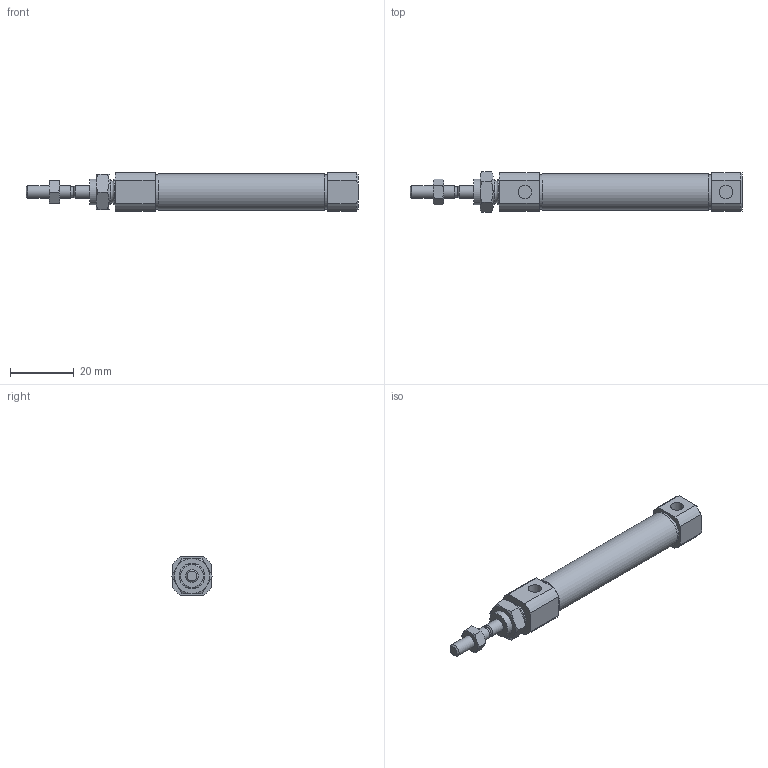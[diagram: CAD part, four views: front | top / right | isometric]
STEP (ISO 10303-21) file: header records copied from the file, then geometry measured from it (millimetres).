
FILE_DESCRIPTION((''),'2;1');
FILE_NAME('I:\3D電子目錄\氣缸\SBA\SBA\SBA10\SBA10x30.stp','2007-10-04T11:37:58',('66-2f-008'),(''),'Autodesk Inventor 11','Autodesk Inventor 11','');
FILE_SCHEMA(('AUTOMOTIVE_DESIGN { 1 0 10303 214 1 1 1 1 }'));
Length unit declared in the file: millimetre
Products named in the file (1): SBA10
Bounding box: 104 x 12.7 x 12 mm (x, y, z)
Volume: 9130.1 mm3; surface area: 4082.7 mm2
Topology: 1 solids, 1 shells, 88 faces, 186 edges, 113 vertices
Faces by surface type: plane 35, cone 30, cylinder 18, bspline 5
Full cylindrical faces by diameter (mm): 3.2 x1, 4 x3, 8 x3, 10.7 x2, 11.3 x1
Entity records: 2337 total; most frequent: CARTESIAN_POINT 609, DIRECTION 352, ORIENTED_EDGE 342, EDGE_CURVE 171, AXIS2_PLACEMENT_3D 153, EDGE_LOOP 116, VERTEX_POINT 113, FACE_OUTER_BOUND 88
